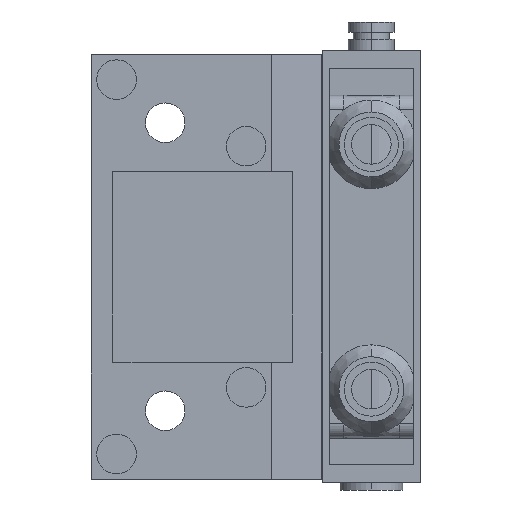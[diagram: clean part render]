
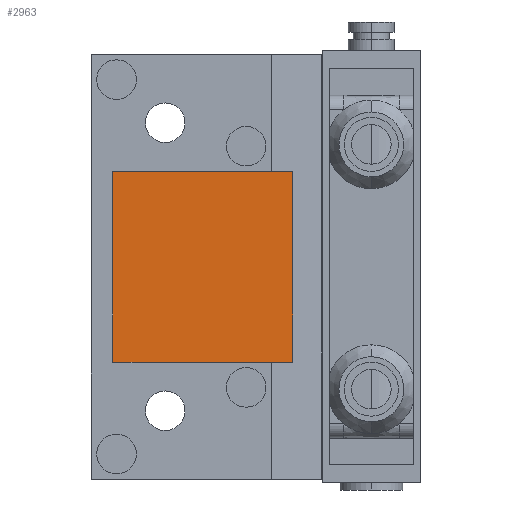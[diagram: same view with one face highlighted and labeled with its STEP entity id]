
A CAD part, front view. The second image highlights one B-rep face of the part: STEP entity #2963.
In plain terms, the highlighted planar face has unit normal (0, -1, 0).
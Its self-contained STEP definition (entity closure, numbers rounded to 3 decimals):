
#28 = EDGE_CURVE ( 'NONE', #2786, #2781, #2893, .T. ) ;
#70 = VERTEX_POINT ( 'NONE', #2212 ) ;
#92 = CARTESIAN_POINT ( 'NONE',  ( 0., 4., 0. ) ) ;
#107 = VECTOR ( 'NONE', #910, 1000. ) ;
#290 = CARTESIAN_POINT ( 'NONE',  ( -22., 4., 13.25 ) ) ;
#383 = EDGE_CURVE ( 'NONE', #2781, #70, #3623, .T. ) ;
#605 = CARTESIAN_POINT ( 'NONE',  ( 3., 4., -13.25 ) ) ;
#619 = ORIENTED_EDGE ( 'NONE', *, *, #28, .T. ) ;
#756 = FACE_OUTER_BOUND ( 'NONE', #1575, .T. ) ;
#828 = VERTEX_POINT ( 'NONE', #605 ) ;
#910 = DIRECTION ( 'NONE',  ( -1., 0., 0. ) ) ;
#1326 = PLANE ( 'NONE',  #2095 ) ;
#1339 = ORIENTED_EDGE ( 'NONE', *, *, #383, .T. ) ;
#1575 = EDGE_LOOP ( 'NONE', ( #2056, #619, #1339, #2182 ) ) ;
#1581 = EDGE_CURVE ( 'NONE', #70, #828, #2607, .T. ) ;
#1981 = DIRECTION ( 'NONE',  ( 0., 0., -1. ) ) ;
#2056 = ORIENTED_EDGE ( 'NONE', *, *, #4019, .T. ) ;
#2077 = LINE ( 'NONE', #3708, #2227 ) ;
#2095 = AXIS2_PLACEMENT_3D ( 'NONE', #92, #3380, #2315 ) ;
#2182 = ORIENTED_EDGE ( 'NONE', *, *, #1581, .T. ) ;
#2212 = CARTESIAN_POINT ( 'NONE',  ( -22., 4., -13.25 ) ) ;
#2227 = VECTOR ( 'NONE', #2468, 1000. ) ;
#2315 = DIRECTION ( 'NONE',  ( 1., 0., 0. ) ) ;
#2386 = CARTESIAN_POINT ( 'NONE',  ( -22., 4., 13.25 ) ) ;
#2468 = DIRECTION ( 'NONE',  ( 0., 0., 1. ) ) ;
#2478 = VECTOR ( 'NONE', #2939, 1000. ) ;
#2539 = CARTESIAN_POINT ( 'NONE',  ( -22., 4., -13.25 ) ) ;
#2592 = CARTESIAN_POINT ( 'NONE',  ( 3., 4., 13.25 ) ) ;
#2607 = LINE ( 'NONE', #2539, #2478 ) ;
#2781 = VERTEX_POINT ( 'NONE', #3830 ) ;
#2786 = VERTEX_POINT ( 'NONE', #2592 ) ;
#2893 = LINE ( 'NONE', #290, #107 ) ;
#2939 = DIRECTION ( 'NONE',  ( 1., 0., 0. ) ) ;
#2963 = ADVANCED_FACE ( 'NONE', ( #756 ), #1326, .T. ) ;
#3264 = VECTOR ( 'NONE', #1981, 1000. ) ;
#3380 = DIRECTION ( 'NONE',  ( 0., -1., 0. ) ) ;
#3623 = LINE ( 'NONE', #2386, #3264 ) ;
#3708 = CARTESIAN_POINT ( 'NONE',  ( 3., 4., 13.25 ) ) ;
#3830 = CARTESIAN_POINT ( 'NONE',  ( -22., 4., 13.25 ) ) ;
#4019 = EDGE_CURVE ( 'NONE', #828, #2786, #2077, .T. ) ;
